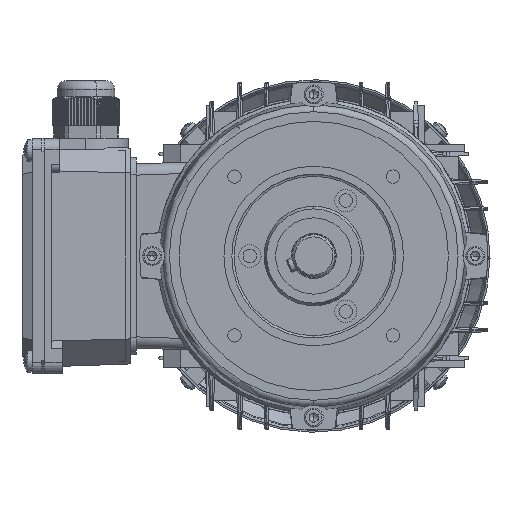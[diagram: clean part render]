
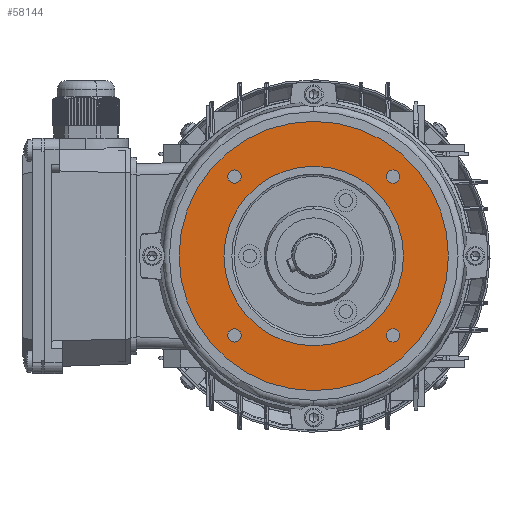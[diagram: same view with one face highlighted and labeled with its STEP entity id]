
A CAD part, left-side view. The second image highlights one B-rep face of the part: STEP entity #58144.
In plain terms, the highlighted planar face has unit normal (-1, 0, 0).
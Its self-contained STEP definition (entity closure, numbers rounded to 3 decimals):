
#403 = VERTEX_POINT ( 'NONE', #74811 ) ;
#487 = EDGE_LOOP ( 'NONE', ( #10274, #107577 ) ) ;
#1536 = DIRECTION ( 'NONE',  ( 1., 0., 0. ) ) ;
#2365 = EDGE_CURVE ( 'NONE', #23293, #403, #103491, .T. ) ;
#3488 = ORIENTED_EDGE ( 'NONE', *, *, #50166, .F. ) ;
#4533 = ORIENTED_EDGE ( 'NONE', *, *, #77051, .T. ) ;
#5742 = DIRECTION ( 'NONE',  ( 0., 0., 1. ) ) ;
#6070 = EDGE_CURVE ( 'NONE', #70067, #18157, #78630, .T. ) ;
#6725 = DIRECTION ( 'NONE',  ( 0., 0., -1. ) ) ;
#9266 = DIRECTION ( 'NONE',  ( 0., 0., -1. ) ) ;
#9576 = EDGE_CURVE ( 'NONE', #18157, #70067, #28021, .T. ) ;
#10274 = ORIENTED_EDGE ( 'NONE', *, *, #114548, .T. ) ;
#11101 = ORIENTED_EDGE ( 'NONE', *, *, #2365, .F. ) ;
#11969 = CARTESIAN_POINT ( 'NONE',  ( 3., -35.355, -35.355 ) ) ;
#12220 = CIRCLE ( 'NONE', #53595, 60. ) ;
#13576 = CARTESIAN_POINT ( 'NONE',  ( 3., 35.355, 35.355 ) ) ;
#16373 = ORIENTED_EDGE ( 'NONE', *, *, #6070, .T. ) ;
#16953 = EDGE_CURVE ( 'NONE', #87646, #48817, #78061, .T. ) ;
#17301 = EDGE_CURVE ( 'NONE', #42743, #73869, #114283, .T. ) ;
#17464 = AXIS2_PLACEMENT_3D ( 'NONE', #109030, #97114, #85140 ) ;
#17770 = DIRECTION ( 'NONE',  ( -1., 0., 0. ) ) ;
#18157 = VERTEX_POINT ( 'NONE', #50856 ) ;
#18727 = DIRECTION ( 'NONE',  ( 1., 0., 0. ) ) ;
#21258 = DIRECTION ( 'NONE',  ( 1., 0., 0. ) ) ;
#21777 = DIRECTION ( 'NONE',  ( 0., 0., -1. ) ) ;
#22263 = CARTESIAN_POINT ( 'NONE',  ( 3., 35.355, -38.355 ) ) ;
#23143 = EDGE_LOOP ( 'NONE', ( #83399, #16373 ) ) ;
#23293 = VERTEX_POINT ( 'NONE', #55292 ) ;
#26534 = EDGE_LOOP ( 'NONE', ( #71543, #53877 ) ) ;
#28021 = CIRCLE ( 'NONE', #82302, 3. ) ;
#29754 = CARTESIAN_POINT ( 'NONE',  ( 3., 0., 0. ) ) ;
#30735 = CARTESIAN_POINT ( 'NONE',  ( 3., -35.355, 35.355 ) ) ;
#32225 = AXIS2_PLACEMENT_3D ( 'NONE', #45821, #33791, #21777 ) ;
#33243 = CARTESIAN_POINT ( 'NONE',  ( 3., -35.355, 35.355 ) ) ;
#33791 = DIRECTION ( 'NONE',  ( 1., 0., 0. ) ) ;
#35611 = ORIENTED_EDGE ( 'NONE', *, *, #76439, .T. ) ;
#36841 = ORIENTED_EDGE ( 'NONE', *, *, #70465, .T. ) ;
#38386 = CARTESIAN_POINT ( 'NONE',  ( 3., 0., 60. ) ) ;
#42410 = CARTESIAN_POINT ( 'NONE',  ( 3., 35.355, -32.355 ) ) ;
#42743 = VERTEX_POINT ( 'NONE', #43951 ) ;
#42873 = DIRECTION ( 'NONE',  ( 0., 0., -1. ) ) ;
#43951 = CARTESIAN_POINT ( 'NONE',  ( 3., -35.355, -32.355 ) ) ;
#45821 = CARTESIAN_POINT ( 'NONE',  ( 3., -35.355, -35.355 ) ) ;
#45985 = DIRECTION ( 'NONE',  ( 0., 0., -1. ) ) ;
#46380 = DIRECTION ( 'NONE',  ( 0., 0., 1. ) ) ;
#48550 = ORIENTED_EDGE ( 'NONE', *, *, #115715, .T. ) ;
#48817 = VERTEX_POINT ( 'NONE', #38386 ) ;
#50166 = EDGE_CURVE ( 'NONE', #403, #23293, #85242, .T. ) ;
#50288 = VERTEX_POINT ( 'NONE', #114297 ) ;
#50856 = CARTESIAN_POINT ( 'NONE',  ( 3., 35.355, 32.355 ) ) ;
#52838 = AXIS2_PLACEMENT_3D ( 'NONE', #79945, #67914, #55886 ) ;
#53595 = AXIS2_PLACEMENT_3D ( 'NONE', #70448, #58423, #46380 ) ;
#53877 = ORIENTED_EDGE ( 'NONE', *, *, #17301, .T. ) ;
#54113 = EDGE_LOOP ( 'NONE', ( #4533, #48550 ) ) ;
#54928 = DIRECTION ( 'NONE',  ( 1., 0., 0. ) ) ;
#55223 = CIRCLE ( 'NONE', #80949, 3. ) ;
#55292 = CARTESIAN_POINT ( 'NONE',  ( 3., 0., 40. ) ) ;
#55886 = DIRECTION ( 'NONE',  ( 0., 0., 1. ) ) ;
#55971 = AXIS2_PLACEMENT_3D ( 'NONE', #66944, #54928, #42873 ) ;
#57851 = CIRCLE ( 'NONE', #99841, 3. ) ;
#58038 = DIRECTION ( 'NONE',  ( 1., 0., 0. ) ) ;
#58144 = ADVANCED_FACE ( 'NONE', ( #83232, #74167, #86251, #89280, #95325, #101326 ), #78965, .F. ) ;
#58423 = DIRECTION ( 'NONE',  ( -1., 0., 0. ) ) ;
#61112 = VERTEX_POINT ( 'NONE', #42410 ) ;
#66152 = CIRCLE ( 'NONE', #32225, 3. ) ;
#66944 = CARTESIAN_POINT ( 'NONE',  ( 3., 40., 0. ) ) ;
#67914 = DIRECTION ( 'NONE',  ( -1., 0., 0. ) ) ;
#68215 = CIRCLE ( 'NONE', #69527, 3. ) ;
#68900 = AXIS2_PLACEMENT_3D ( 'NONE', #11969, #117037, #105179 ) ;
#69527 = AXIS2_PLACEMENT_3D ( 'NONE', #70053, #58038, #45985 ) ;
#70053 = CARTESIAN_POINT ( 'NONE',  ( 3., 35.355, -35.355 ) ) ;
#70067 = VERTEX_POINT ( 'NONE', #89346 ) ;
#70448 = CARTESIAN_POINT ( 'NONE',  ( 3., 0., 0. ) ) ;
#70465 = EDGE_CURVE ( 'NONE', #50288, #76230, #55223, .T. ) ;
#71543 = ORIENTED_EDGE ( 'NONE', *, *, #114092, .T. ) ;
#73869 = VERTEX_POINT ( 'NONE', #116834 ) ;
#74167 = FACE_BOUND ( 'NONE', #114757, .T. ) ;
#74811 = CARTESIAN_POINT ( 'NONE',  ( 3., 0., -40. ) ) ;
#76230 = VERTEX_POINT ( 'NONE', #106744 ) ;
#76439 = EDGE_CURVE ( 'NONE', #76230, #50288, #112763, .T. ) ;
#77051 = EDGE_CURVE ( 'NONE', #79876, #61112, #68215, .T. ) ;
#78061 = CIRCLE ( 'NONE', #100583, 60. ) ;
#78630 = CIRCLE ( 'NONE', #110680, 3. ) ;
#78965 = PLANE ( 'NONE',  #55971 ) ;
#79876 = VERTEX_POINT ( 'NONE', #22263 ) ;
#79945 = CARTESIAN_POINT ( 'NONE',  ( 3., 0., 0. ) ) ;
#80949 = AXIS2_PLACEMENT_3D ( 'NONE', #30735, #18727, #6725 ) ;
#82302 = AXIS2_PLACEMENT_3D ( 'NONE', #106946, #95026, #83027 ) ;
#83027 = DIRECTION ( 'NONE',  ( 0., 0., -1. ) ) ;
#83232 = FACE_BOUND ( 'NONE', #23143, .T. ) ;
#83399 = ORIENTED_EDGE ( 'NONE', *, *, #9576, .T. ) ;
#84956 = DIRECTION ( 'NONE',  ( 0., 0., -1. ) ) ;
#85140 = DIRECTION ( 'NONE',  ( 0., 0., 1. ) ) ;
#85242 = CIRCLE ( 'NONE', #52838, 40. ) ;
#86251 = FACE_BOUND ( 'NONE', #26534, .T. ) ;
#87646 = VERTEX_POINT ( 'NONE', #108710 ) ;
#89280 = FACE_BOUND ( 'NONE', #54113, .T. ) ;
#89346 = CARTESIAN_POINT ( 'NONE',  ( 3., 35.355, 38.355 ) ) ;
#93656 = EDGE_LOOP ( 'NONE', ( #11101, #3488 ) ) ;
#94422 = AXIS2_PLACEMENT_3D ( 'NONE', #33243, #21258, #9266 ) ;
#95026 = DIRECTION ( 'NONE',  ( 1., 0., 0. ) ) ;
#95325 = FACE_BOUND ( 'NONE', #93656, .T. ) ;
#96928 = DIRECTION ( 'NONE',  ( 1., 0., 0. ) ) ;
#97114 = DIRECTION ( 'NONE',  ( -1., 0., 0. ) ) ;
#99841 = AXIS2_PLACEMENT_3D ( 'NONE', #108848, #96928, #84956 ) ;
#100583 = AXIS2_PLACEMENT_3D ( 'NONE', #29754, #17770, #5742 ) ;
#101326 = FACE_OUTER_BOUND ( 'NONE', #487, .T. ) ;
#103491 = CIRCLE ( 'NONE', #17464, 40. ) ;
#105179 = DIRECTION ( 'NONE',  ( 0., 0., -1. ) ) ;
#106744 = CARTESIAN_POINT ( 'NONE',  ( 3., -35.355, 38.355 ) ) ;
#106773 = DIRECTION ( 'NONE',  ( 0., 0., -1. ) ) ;
#106946 = CARTESIAN_POINT ( 'NONE',  ( 3., 35.355, 35.355 ) ) ;
#107577 = ORIENTED_EDGE ( 'NONE', *, *, #16953, .T. ) ;
#108710 = CARTESIAN_POINT ( 'NONE',  ( 3., 0., -60. ) ) ;
#108848 = CARTESIAN_POINT ( 'NONE',  ( 3., 35.355, -35.355 ) ) ;
#109030 = CARTESIAN_POINT ( 'NONE',  ( 3., 0., 0. ) ) ;
#110680 = AXIS2_PLACEMENT_3D ( 'NONE', #13576, #1536, #106773 ) ;
#112763 = CIRCLE ( 'NONE', #94422, 3. ) ;
#114092 = EDGE_CURVE ( 'NONE', #73869, #42743, #66152, .T. ) ;
#114283 = CIRCLE ( 'NONE', #68900, 3. ) ;
#114297 = CARTESIAN_POINT ( 'NONE',  ( 3., -35.355, 32.355 ) ) ;
#114548 = EDGE_CURVE ( 'NONE', #48817, #87646, #12220, .T. ) ;
#114757 = EDGE_LOOP ( 'NONE', ( #36841, #35611 ) ) ;
#115715 = EDGE_CURVE ( 'NONE', #61112, #79876, #57851, .T. ) ;
#116834 = CARTESIAN_POINT ( 'NONE',  ( 3., -35.355, -38.355 ) ) ;
#117037 = DIRECTION ( 'NONE',  ( 1., 0., 0. ) ) ;
